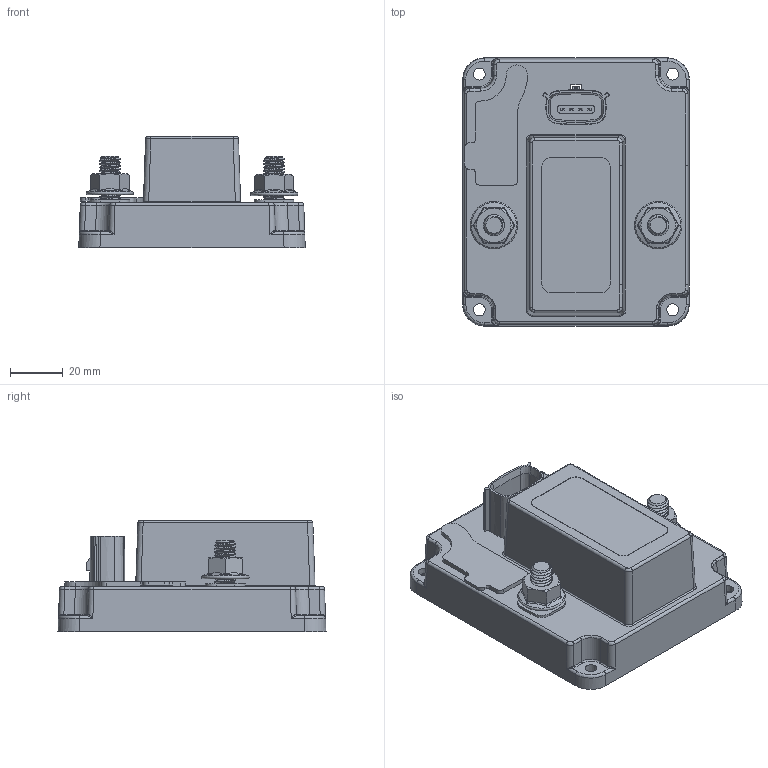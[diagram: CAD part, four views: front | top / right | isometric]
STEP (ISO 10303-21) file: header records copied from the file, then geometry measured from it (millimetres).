
FILE_DESCRIPTION(/* description */ (''),/* implementation_level */ '2;1');
FILE_NAME(/* name */ '5fa1d05342f96e11f34be16b',/* time_stamp */ '2020-11-03T21:49:09+00:00',/* author */ (''),/* organization */ (''),/* preprocessor_version */ 'ST-DEVELOPER v16.7',/* originating_system */ $,/* authorisation */ $);
FILE_SCHEMA (('AUTOMOTIVE_DESIGN {1 0 10303 214 3 1 1}'));
Length unit declared in the file: metre
Products named in the file (1): Part 1
Bounding box: 85.5 x 101.18 x 42 mm (x, y, z)
Volume: 197267 mm3; surface area: 35668.1 mm2
Topology: 1 solids, 3 shells, 481 faces, 1230 edges, 758 vertices
Faces by surface type: plane 201, cylinder 133, bspline 74, cone 67, torus 4, sphere 2
Full cylindrical faces by diameter (mm): 4 x1
Entity records: 23682 total; most frequent: CARTESIAN_POINT 12516, ORIENTED_EDGE 2400, DIRECTION 2254, EDGE_CURVE 1200, AXIS2_PLACEMENT_3D 830, VERTEX_POINT 750, LINE 594, VECTOR 594
